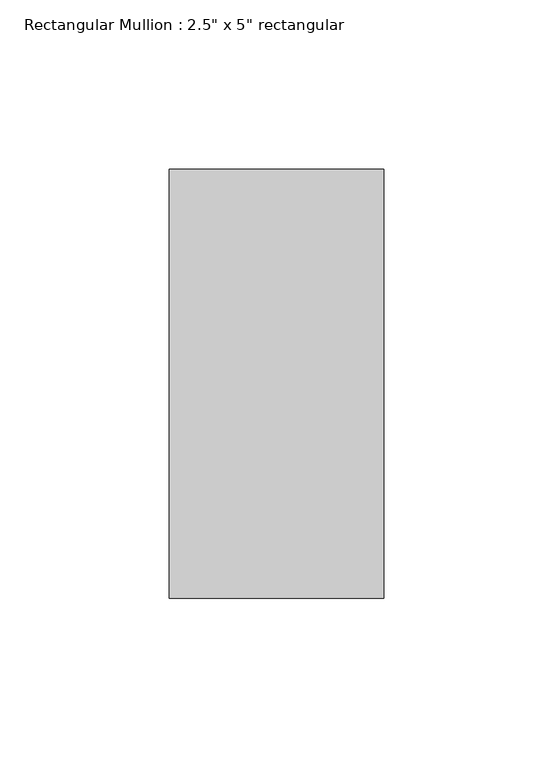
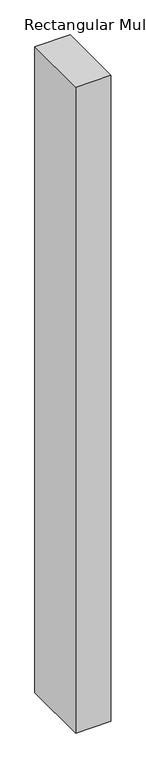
"""IFC4 building model written with IfcOpenShell, lengths in millimetres: member geometry."""

from ifc_helpers import new_model, si_unit, frame, origin, place, context, project, spatial, polyline, outline, extrude, source, transform, mapped, element, save


def member_403b7554(model_context):
    return source(origin(), model_context, "Body", "SweptSolid", [
        extrude(outline(polyline([(0.0, 76.2), (0.0, -50.8), (-63.5, -50.8), (-63.5, 76.2), (0.0, 76.2)])), frame((0.0, 0.0, -1228.725), z_axis=(0.0, 0.0, 1.0), x_axis=(1.0, 0.0, 0.0)), (0.0, 0.0, 1.0), 1228.725),
    ])


if __name__ == "__main__":
    model = new_model("IFC4")
    model_context = context("Model", 3, world=origin())
    ifc_project = project(units=[si_unit("LENGTHUNIT", "METRE", prefix="MILLI")], contexts=[model_context])
    site = spatial("IfcSite", under=ifc_project)
    building = spatial("IfcBuilding", under=site)
    placement = place(None, origin())
    member_shape = member_403b7554(model_context)
    element("IfcMember", 1, ObjectType="Rectangular Mullion : 2.5\" x 5\" rectangular", at=placement, inside=building, context=model_context, shape_type="MappedRepresentation", body=[
        mapped(member_shape, transform((0.0, 0.0, 0.0), x_axis=(1.0, 0.0, 0.0), y_axis=(0.0, 1.0, 0.0), z_axis=(0.0, 0.0, 1.0))),
    ])
    save(model, "model.ifc")
